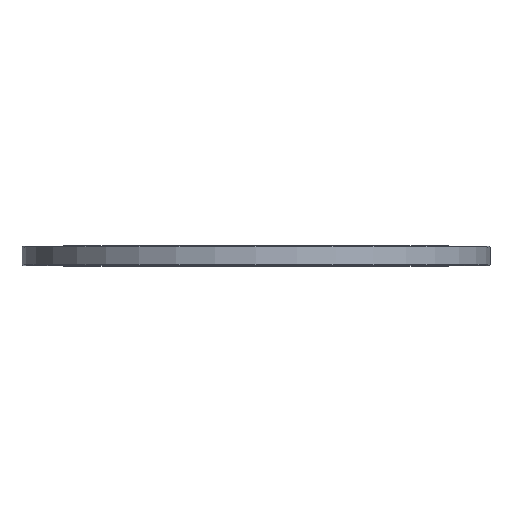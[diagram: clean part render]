
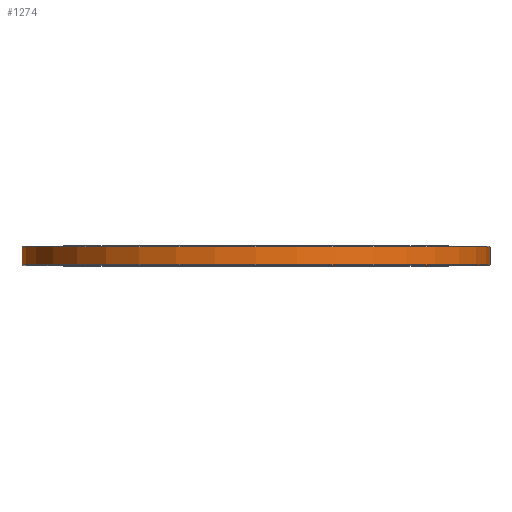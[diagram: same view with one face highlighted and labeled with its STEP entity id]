
A CAD part, top view. The second image highlights one B-rep face of the part: STEP entity #1274.
In plain terms, the highlighted cylindrical face has radius 562.5 mm (diameter 1125 mm), a full revolution.
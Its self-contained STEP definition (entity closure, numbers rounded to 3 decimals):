
#246=ORIENTED_EDGE('',*,*,#432,.T.);
#247=ORIENTED_EDGE('',*,*,#433,.T.);
#432=EDGE_CURVE('',#552,#552,#672,.F.);
#433=EDGE_CURVE('',#553,#553,#673,.T.);
#552=VERTEX_POINT('',#2240);
#553=VERTEX_POINT('',#2242);
#672=CIRCLE('',#1490,562.5);
#673=CIRCLE('',#1491,562.5);
#846=EDGE_LOOP('',(#246));
#847=EDGE_LOOP('',(#247));
#1086=FACE_BOUND('',#846,.T.);
#1087=FACE_BOUND('',#847,.T.);
#1190=CYLINDRICAL_SURFACE('',#1489,562.5);
#1274=ADVANCED_FACE('',(#1086,#1087),#1190,.T.);
#1489=AXIS2_PLACEMENT_3D('',#2238,#1895,#1896);
#1490=AXIS2_PLACEMENT_3D('',#2239,#1897,#1898);
#1491=AXIS2_PLACEMENT_3D('',#2241,#1899,#1900);
#1895=DIRECTION('',(0.,-1.,0.));
#1896=DIRECTION('',(0.,0.,-1.));
#1897=DIRECTION('',(0.,1.,0.));
#1898=DIRECTION('',(0.,0.,1.));
#1899=DIRECTION('',(0.,1.,0.));
#1900=DIRECTION('',(0.,0.,1.));
#2238=CARTESIAN_POINT('',(0.,47.,0.));
#2239=CARTESIAN_POINT('',(0.,45.,0.));
#2240=CARTESIAN_POINT('',(0.,45.,562.5));
#2241=CARTESIAN_POINT('',(0.,2.,0.));
#2242=CARTESIAN_POINT('',(0.,2.,562.5));
